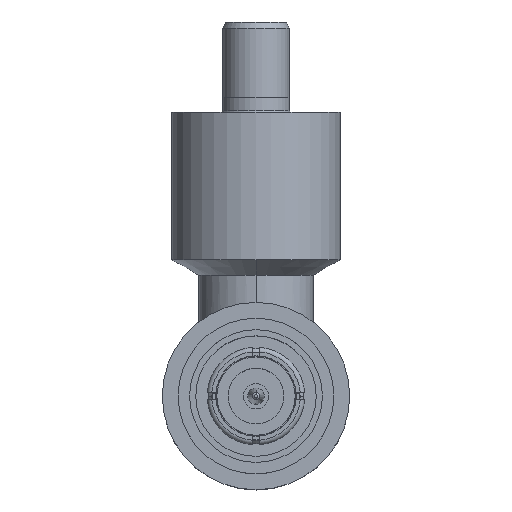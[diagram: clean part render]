
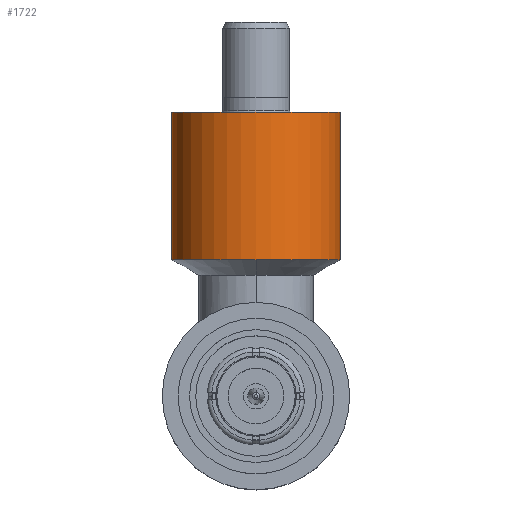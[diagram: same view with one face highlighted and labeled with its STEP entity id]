
A CAD part, top view. The second image highlights one B-rep face of the part: STEP entity #1722.
In plain terms, the highlighted cylindrical face has radius 7.112 mm (diameter 14.224 mm), a partial arc.
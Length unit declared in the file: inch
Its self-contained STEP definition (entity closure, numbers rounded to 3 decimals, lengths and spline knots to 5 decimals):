
#70=CARTESIAN_POINT('',(0.,1.134,0.));
#71=DIRECTION('',(0.,1.,0.));
#72=DIRECTION('',(-1.,0.,0.));
#73=AXIS2_PLACEMENT_3D('',#70,#71,#72);
#95=CARTESIAN_POINT('',(0.,0.64496,0.));
#96=DIRECTION('',(0.,1.,0.));
#97=DIRECTION('',(0.,0.,1.));
#98=AXIS2_PLACEMENT_3D('',#95,#96,#97);
#105=CARTESIAN_POINT('',(0.,0.64496,0.));
#106=DIRECTION('',(0.,1.,0.));
#107=DIRECTION('',(-1.,0.,0.));
#108=AXIS2_PLACEMENT_3D('',#105,#106,#107);
#123=DIRECTION('',(0.,1.,0.));
#124=VECTOR('',#123,0.48904);
#125=CARTESIAN_POINT('',(-0.28,0.64496,0.));
#126=LINE('',#125,#124);
#127=DIRECTION('',(0.,-1.,0.));
#128=VECTOR('',#127,0.48904);
#129=CARTESIAN_POINT('',(0.28,1.134,0.));
#130=LINE('',#129,#128);
#1343=CARTESIAN_POINT('',(0.28,1.134,0.));
#1344=CARTESIAN_POINT('',(-0.28,1.134,0.));
#1345=VERTEX_POINT('',#1343);
#1346=VERTEX_POINT('',#1344);
#1347=CARTESIAN_POINT('',(0.28,0.64496,0.));
#1349=VERTEX_POINT('',#1347);
#1351=CARTESIAN_POINT('',(-0.28,0.64496,0.));
#1352=VERTEX_POINT('',#1351);
#1357=CARTESIAN_POINT('',(0.,0.64496,0.28));
#1358=VERTEX_POINT('',#1357);
#1710=CARTESIAN_POINT('',(0.,0.64496,0.));
#1711=DIRECTION('',(0.,1.,0.));
#1712=DIRECTION('',(1.,0.,0.));
#1713=AXIS2_PLACEMENT_3D('',#1710,#1711,#1712);
#1714=CYLINDRICAL_SURFACE('',#1713,0.28);
#1715=ORIENTED_EDGE('',*,*,#1690,.F.);
#1716=ORIENTED_EDGE('',*,*,#1701,.F.);
#1717=ORIENTED_EDGE('',*,*,#1671,.T.);
#1718=ORIENTED_EDGE('',*,*,#1650,.T.);
#1719=ORIENTED_EDGE('',*,*,#1668,.T.);
#1720=EDGE_LOOP('',(#1715,#1716,#1717,#1718,#1719));
#1721=FACE_OUTER_BOUND('',#1720,.F.);
#74=CIRCLE('',#73,0.28);
#99=CIRCLE('',#98,0.28);
#109=CIRCLE('',#108,0.28);
#1650=EDGE_CURVE('',#1346,#1345,#74,.T.);
#1668=EDGE_CURVE('',#1345,#1349,#130,.T.);
#1671=EDGE_CURVE('',#1352,#1346,#126,.T.);
#1690=EDGE_CURVE('',#1358,#1349,#99,.T.);
#1701=EDGE_CURVE('',#1352,#1358,#109,.T.);
#1722=ADVANCED_FACE('',(#1721),#1714,.T.);
